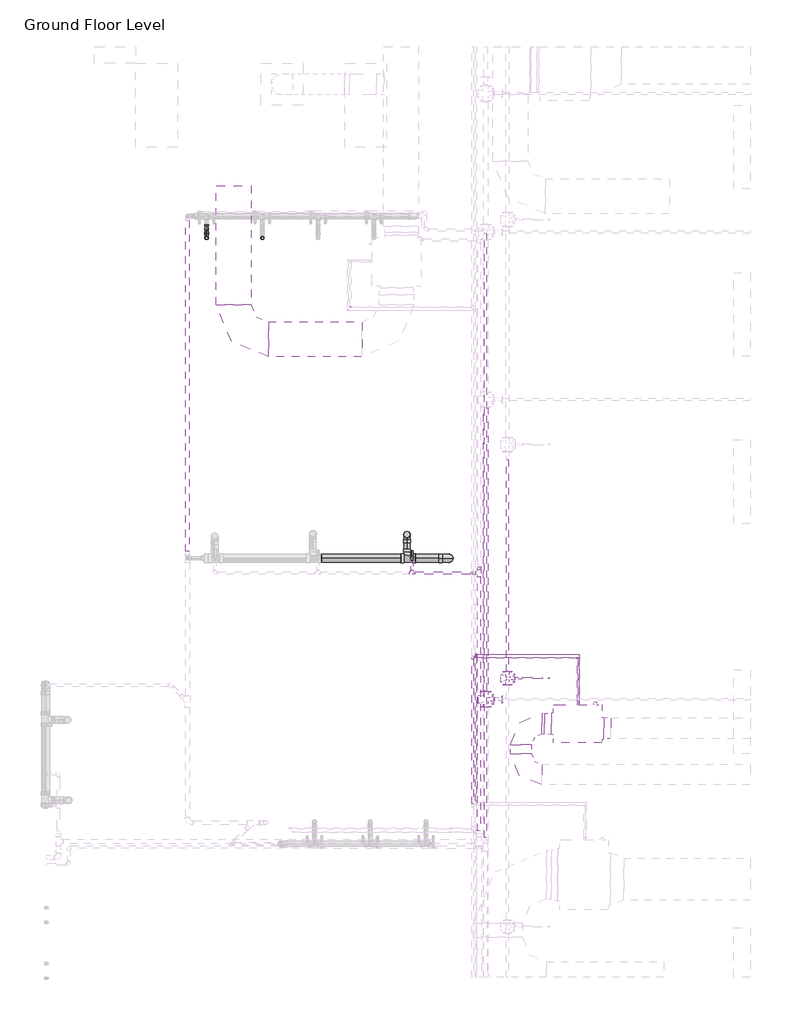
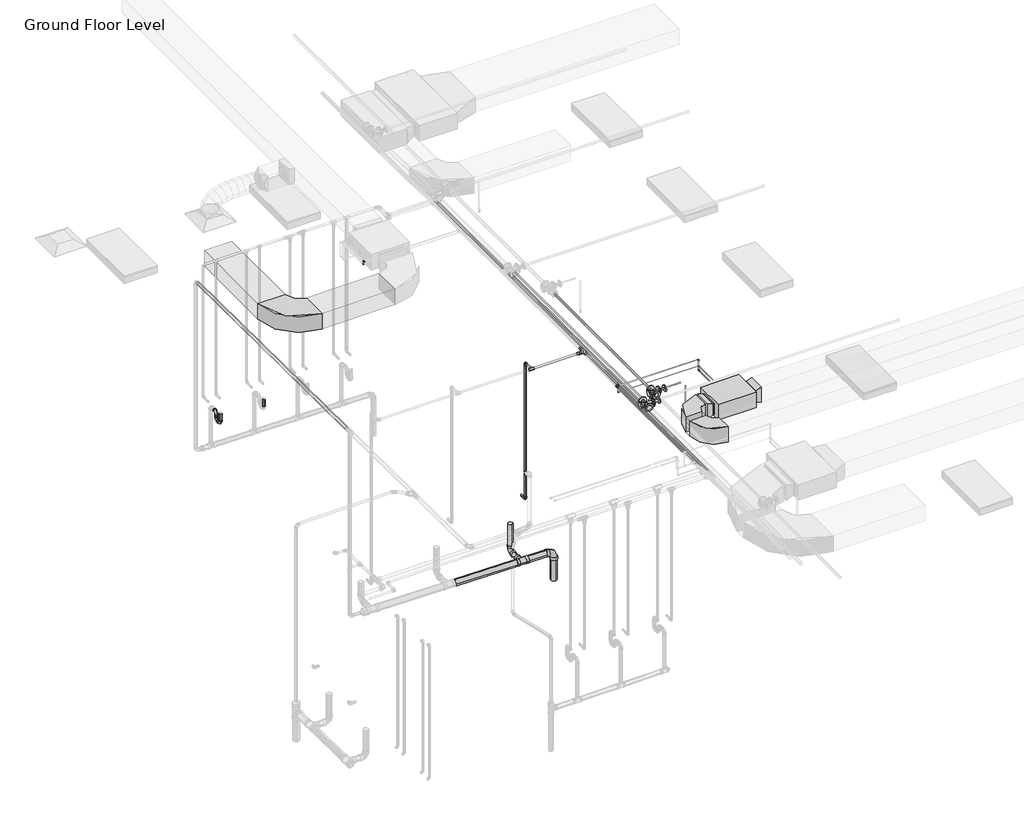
# One storey, part 21 of 75: 29 pipe segments, 26 pipe fittings, 5 duct fittings, 4 duct segments, 1 fire suppression terminal, 1 proxy.
"""IFC4 building model written with IfcOpenShell, lengths in millimetres."""

from ifc_helpers import new_model, si_unit, point, frame, frame_2d, origin, place, context, project, spatial, polyline, circle_curve, trimmed, segment, composite_curve, outline, extrude, transform, mapped, element, save
from components import fcu_daikin_iu_27d020f6, m_rectangular_elbow_radius_1_w_618da153, m_rectangular_elbow_radius_1_w_abe20169, m_rectangular_transition_angle_45_degree_bfac0661, m_rectangular_transition_angle_45_degree_d4666cfa, m_sprinkler_pendent_15_mm_pendent_06fcbd8e, m_bend_pvc_sch_40_dwv_standard_a4b99d37, m_bend_pvc_sch_40_dwv_standard_aa7efa4c, m_bend_pvc_sch_40_dwv_standard_1e7bdcc1, m_bend_pvc_sch_40_dwv_standard_776e50c4, m_elbow_generic_standard_a088f956, m_elbow_generic_standard_2a704253, m_reducer_flanged_cs_class_150_standard_d42b2106, m_reducer_flanged_cs_class_150_standard_a7631c35, m_tee_generic_standard_5b2ed4d4, m_tee_generic_standard_5078887e, m_tee_reducing_sanitary_pvc_sch_40_dwv_standard_b49161a9, m_tee_round_base_flanged_cs_class_150_standard_dd767e04, m_tee_round_base_flanged_cs_class_150_standard_7e5987a1, m_transition_generic_standard_44e35838, m_transition_generic_standard_2d362458, standard_517a5a8d, standard_72b35c3b, standard_08ff6011, standard_d0d0b892

model = new_model("IFC4")

# Units and contexts
model_context = context("Model", 3, world=origin())
ifc_project = project(units=[si_unit("LENGTHUNIT", "METRE", prefix="MILLI")], contexts=[model_context])

# Site, building, storey
site = spatial("IfcSite", under=ifc_project)
building = spatial("IfcBuilding", under=site)
storey = spatial("IfcBuildingStorey", under=building, Name="Ground Floor Level", Elevation=900.0)

# Proxy
placement = place(None, origin())
fcu_daikin_iu_shape = fcu_daikin_iu_27d020f6(model_context)
element("IfcBuildingElementProxy", 1, Name="FCU-DAIKIN IU : 2.3kW, 230V/50Hz/1Ph", ObjectType="FCU-DAIKIN IU : 2.3kW, 230V/50Hz/1Ph", at=placement, inside=storey, context=model_context, shape_type="MappedRepresentation", body=[
    mapped(fcu_daikin_iu_shape, transform((7003.8644074, -31136.6877703, 4080.0), x_axis=(0.0, 1.0, 0.0), y_axis=(-1.0, 0.0, 0.0), z_axis=(0.0, 0.0, 1.0))),
])

# Duct fittings
m_rectangular_elbow_radius_1_w_shape = m_rectangular_elbow_radius_1_w_618da153(model_context)
element("IfcDuctFitting", 2, ObjectType="M_Rectangular Elbow - Radius : 1 W", at=placement, inside=storey, context=model_context, shape_type="MappedRepresentation", body=[
    mapped(m_rectangular_elbow_radius_1_w_shape, transform((6188.4644074, -31136.6877703, 4221.2), x_axis=(-1.0, 0.0, 0.0), y_axis=(0.0, -1.0, 0.0), z_axis=(0.0, 0.0, 1.0))),
])
element("IfcDuctFitting", 3, ObjectType="M_Rectangular Elbow - Radius : 1 W", at=placement, inside=storey, context=model_context, shape_type="MappedRepresentation", body=[
    mapped(m_rectangular_elbow_radius_1_w_shape, transform((6188.4644074, -31864.7846466, 4221.2), x_axis=(0.0, -1.0, 0.0), y_axis=(1.0, 0.0, 0.0), z_axis=(0.0, 0.0, 1.0))),
])
m_rectangular_elbow_radius_1_w_2_shape = m_rectangular_elbow_radius_1_w_abe20169(model_context)
element("IfcDuctFitting", 4, ObjectType="M_Rectangular Elbow - Radius : 1 W", at=placement, inside=storey, context=model_context, shape_type="MappedRepresentation", body=[
    mapped(m_rectangular_elbow_radius_1_w_2_shape, transform((2065.6581888, -25622.6440715, 4075.2875), x_axis=(0.0, -1.0, 0.0), y_axis=(1.0, 0.0, 0.0), z_axis=(0.0, 0.0, 1.0))),
])
m_rectangular_transition_angle_45_degree_shape = m_rectangular_transition_angle_45_degree_bfac0661(model_context)
element("IfcDuctFitting", 5, ObjectType="M_Rectangular Transition - Angle : 45 Degree", at=placement, inside=storey, context=model_context, shape_type="MappedRepresentation", body=[
    mapped(m_rectangular_transition_angle_45_degree_shape, transform((6628.4644074, -31136.6877703, 4221.2), x_axis=(-1.0, 0.0, 0.0), y_axis=(0.0, -1.0, 0.0), z_axis=(0.0, 0.0, 1.0))),
])
m_rectangular_transition_angle_45_degree_2_shape = m_rectangular_transition_angle_45_degree_d4666cfa(model_context)
element("IfcDuctFitting", 6, ObjectType="M_Rectangular Transition - Angle : 45 Degree", at=placement, inside=storey, context=model_context, shape_type="MappedRepresentation", body=[
    mapped(m_rectangular_transition_angle_45_degree_2_shape, transform((7379.2644074, -31200.1877703, 4245.9125), x_axis=(1.0, 0.0, 0.0), y_axis=(0.0, 1.0, 0.0), z_axis=(0.0, 0.0, 1.0))),
])

# Duct segments
element("IfcDuctSegment", 7, ObjectType="Radius Elbows / Taps", at=placement, inside=storey, context=model_context, shape_type="SweptSolid", body=[
    extrude(outline(polyline([(0.0, -500.0), (0.0, 0.0), (1339.9999945, 0.0), (1339.9999945, -500.0), (0.0, -500.0)])), frame((3905.660192, -25872.6440715, 3925.3054453), z_axis=(-1.3392036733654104e-05, 0.0, 0.9999999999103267), x_axis=(-0.9999999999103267, 0.0, -1.3392036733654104e-05)), (0.0, 0.0, 1.0), 300.0),
])
element("IfcDuctSegment", 8, ObjectType="Radius Elbows / Taps", at=placement, inside=storey, context=model_context, shape_type="SweptSolid", body=[
    extrude(outline(polyline([(2315.6581888, -25122.6440715), (1815.6581888, -25122.6440715), (1815.6581888, -23422.6440715), (2315.6581888, -23422.6440715), (2315.6581888, -25122.6440715)])), frame((0.0, 0.0, 3925.2875), z_axis=(0.0, 0.0, 1.0), x_axis=(1.0, 0.0, 0.0)), (0.0, 0.0, 1.0), 300.0),
])
element("IfcDuctSegment", 9, ObjectType="Radius Elbows / Taps", at=placement, inside=storey, context=model_context, shape_type="SweptSolid", body=[
    extrude(outline(polyline([(6525.0153563, -30986.6877703), (6525.0153563, -31286.6877703), (6488.4644074, -31286.6877703), (6488.4644074, -30986.6877703), (6525.0153563, -30986.6877703)])), frame((0.0, 0.0, 4071.2), z_axis=(0.0, 0.0, 1.0), x_axis=(1.0, 0.0, 0.0)), (0.0, 0.0, 1.0), 300.0),
])
element("IfcDuctSegment", 10, ObjectType="Radius Elbows / Taps", at=placement, inside=storey, context=model_context, shape_type="SweptSolid", body=[
    extrude(outline(polyline([(6038.4644074, -31436.6877703), (6338.4644074, -31436.6877703), (6338.4644074, -31564.7846466), (6038.4644074, -31564.7846466), (6038.4644074, -31436.6877703)])), frame((0.0, 0.0, 4071.2), z_axis=(0.0, 0.0, 1.0), x_axis=(1.0, 0.0, 0.0)), (0.0, 0.0, 1.0), 300.0),
])

# Fire suppression terminal
m_sprinkler_pendent_15_mm_pendent_shape = m_sprinkler_pendent_15_mm_pendent_06fcbd8e(model_context)
element("IfcFireSuppressionTerminal", 11, ObjectType="M_Sprinkler - Pendent : 15 mm Pendent", at=placement, inside=storey, context=model_context, shape_type="MappedRepresentation", body=[
    mapped(m_sprinkler_pendent_15_mm_pendent_shape, transform((6592.5481019, -30483.0742399, 3650.0), x_axis=(1.0, 0.0, 0.0), y_axis=(0.0, 1.0, 0.0), z_axis=(0.0, 0.0, 1.0))),
])

# Pipe fittings
m_bend_pvc_sch_40_dwv_standard_shape = m_bend_pvc_sch_40_dwv_standard_a4b99d37(model_context)
element("IfcPipeFitting", 12, ObjectType="M_Bend - PVC - Sch 40 - DWV : Standard", at=placement, inside=storey, context=model_context, shape_type="MappedRepresentation", body=[
    mapped(m_bend_pvc_sch_40_dwv_standard_shape, transform((4553.7150181, -28421.2419494, 454.489269), x_axis=(0.0, 0.0, -1.0), y_axis=(0.0, -1.0, 0.0), z_axis=(-1.0, 0.0, 0.0))),
])
m_bend_pvc_sch_40_dwv_standard_2_shape = m_bend_pvc_sch_40_dwv_standard_aa7efa4c(model_context)
element("IfcPipeFitting", 13, ObjectType="M_Bend - PVC - Sch 40 - DWV : Standard", at=placement, inside=storey, context=model_context, shape_type="MappedRepresentation", body=[
    mapped(m_bend_pvc_sch_40_dwv_standard_2_shape, transform((5158.4803359, -28761.5689421, 448.4416158), x_axis=(0.9999500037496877, 0.0, -0.00999950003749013), y_axis=(-0.00999950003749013, 0.0, -0.9999500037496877), z_axis=(0.0, 1.0, 0.0))),
])
m_bend_pvc_sch_40_dwv_standard_3_shape = m_bend_pvc_sch_40_dwv_standard_1e7bdcc1(model_context)
element("IfcPipeFitting", 14, ObjectType="M_Bend - PVC - Sch 40 - DWV : Standard", at=placement, inside=storey, context=model_context, shape_type="MappedRepresentation", body=[
    mapped(m_bend_pvc_sch_40_dwv_standard_3_shape, transform((1678.7498, -24168.3528578, 1360.0000049), x_axis=(0.0, 0.0, -1.0), y_axis=(0.0, 1.0, 0.0), z_axis=(1.0, 0.0, 0.0))),
])
m_bend_pvc_sch_40_dwv_standard_4_shape = m_bend_pvc_sch_40_dwv_standard_776e50c4(model_context)
element("IfcPipeFitting", 15, ObjectType="M_Bend - PVC - Sch 40 - DWV : Standard", at=placement, inside=storey, context=model_context, shape_type="MappedRepresentation", body=[
    mapped(m_bend_pvc_sch_40_dwv_standard_4_shape, transform((1678.7498, -24038.3523645, 1358.7), x_axis=(0.0, 0.9999500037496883, -0.009999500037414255), y_axis=(0.0, 0.009999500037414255, 0.9999500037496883), z_axis=(1.0, 0.0, 0.0))),
])
element("IfcPipeFitting", 16, ObjectType="M_Bend - PVC - Sch 40 - DWV : Standard", at=placement, inside=storey, context=model_context, shape_type="MappedRepresentation", body=[
    mapped(m_bend_pvc_sch_40_dwv_standard_4_shape, transform((1678.7498, -24038.3523645, 1510.0493267), x_axis=(0.0, 0.0, 1.0), y_axis=(0.0, 1.0, 0.0), z_axis=(-1.0, 0.0, 0.0))),
])
m_elbow_generic_standard_shape = m_elbow_generic_standard_a088f956(model_context)
element("IfcPipeFitting", 17, ObjectType="M_Elbow - Generic : Standard", at=placement, inside=storey, context=model_context, shape_type="MappedRepresentation", body=[
    mapped(m_elbow_generic_standard_shape, transform((7003.8644074, -30187.4513653, 4390.0), x_axis=(1.0, 0.0, 0.0), y_axis=(0.0, 0.0, -1.0), z_axis=(0.0, 1.0, 0.0))),
])
element("IfcPipeFitting", 18, ObjectType="M_Elbow - Generic : Standard", at=placement, inside=storey, context=model_context, shape_type="MappedRepresentation", body=[
    mapped(m_elbow_generic_standard_shape, transform((7003.8644074, -30187.4513653, 4180.0), x_axis=(0.0, 0.0, -1.0), y_axis=(0.0, -1.0, 0.0), z_axis=(-1.0, 0.0, 0.0))),
])
element("IfcPipeFitting", 19, ObjectType="M_Elbow - Generic : Standard", at=placement, inside=storey, context=model_context, shape_type="MappedRepresentation", body=[
    mapped(m_elbow_generic_standard_shape, transform((3741.7995393, -25162.0896488, 4390.0), x_axis=(0.0, -1.0, 0.0), y_axis=(1.0, 0.0, 0.0), z_axis=(0.0, 0.0, 1.0))),
])
m_elbow_generic_standard_2_shape = m_elbow_generic_standard_2a704253(model_context)
element("IfcPipeFitting", 20, ObjectType="M_Elbow - Generic : Standard", at=placement, inside=storey, context=model_context, shape_type="MappedRepresentation", body=[
    mapped(m_elbow_generic_standard_2_shape, transform((3705.4496688, -25206.4899508, 4377.5), x_axis=(0.0, -1.0, 0.0), y_axis=(1.0, 0.0, 0.0), z_axis=(0.0, 0.0, 1.0))),
])
element("IfcPipeFitting", 21, ObjectType="M_Elbow - Generic : Standard", at=placement, inside=storey, context=model_context, shape_type="MappedRepresentation", body=[
    mapped(m_elbow_generic_standard_2_shape, transform((7028.8644074, -30144.9316538, 4230.8), x_axis=(0.0, 1.0, 0.0), y_axis=(-1.0, 0.0, 0.0), z_axis=(0.0, 0.0, 1.0))),
])
element("IfcPipeFitting", 22, ObjectType="M_Elbow - Generic : Standard", at=placement, inside=storey, context=model_context, shape_type="MappedRepresentation", body=[
    mapped(m_elbow_generic_standard_2_shape, transform((5543.9904113, -30144.9316538, 4230.8), x_axis=(0.0, 0.0, -1.0), y_axis=(1.0, 0.0, 0.0), z_axis=(0.0, -1.0, 0.0))),
])
m_reducer_flanged_cs_class_150_standard_shape = m_reducer_flanged_cs_class_150_standard_d42b2106(model_context)
element("IfcPipeFitting", 23, ObjectType="M_Reducer - Flanged - CS - Class 150 : Standard", at=placement, inside=storey, context=model_context, shape_type="MappedRepresentation", body=[
    mapped(m_reducer_flanged_cs_class_150_standard_shape, transform((6097.7664057, -30483.0742399, 4291.2754753), x_axis=(1.0, 0.0, 0.0), y_axis=(0.0, 0.0, -1.0), z_axis=(0.0, 1.0, 0.0))),
])
m_reducer_flanged_cs_class_150_standard_2_shape = m_reducer_flanged_cs_class_150_standard_a7631c35(model_context)
element("IfcPipeFitting", 24, ObjectType="M_Reducer - Flanged - CS - Class 150 : Standard", at=placement, inside=storey, context=model_context, shape_type="MappedRepresentation", body=[
    mapped(m_reducer_flanged_cs_class_150_standard_2_shape, transform((5798.6174894, -30785.1783804, 4347.5), x_axis=(1.0, 0.0, 0.0), y_axis=(0.0, 0.0, 1.0), z_axis=(0.0, -1.0, 0.0))),
])
m_tee_generic_standard_shape = m_tee_generic_standard_5b2ed4d4(model_context)
element("IfcPipeFitting", 25, ObjectType="M_Tee - Generic : Standard", at=placement, inside=storey, context=model_context, shape_type="MappedRepresentation", body=[
    mapped(m_tee_generic_standard_shape, transform((5543.9904113, -30144.9316538, 4377.5), x_axis=(0.0, -1.0, 0.0), y_axis=(0.0, 0.0, 1.0), z_axis=(-1.0, 0.0, 0.0))),
])
m_tee_generic_standard_2_shape = m_tee_generic_standard_5078887e(model_context)
element("IfcPipeFitting", 26, ObjectType="M_Tee - Generic : Standard", at=placement, inside=storey, context=model_context, shape_type="MappedRepresentation", body=[
    mapped(m_tee_generic_standard_2_shape, transform((5497.8951827, -30187.4513653, 4390.0), x_axis=(0.0, -1.0, 0.0), y_axis=(-1.0, 0.0, 0.0), z_axis=(0.0, 0.0, -1.0))),
])
m_tee_reducing_sanitary_pvc_sch_40_dwv_standard_shape = m_tee_reducing_sanitary_pvc_sch_40_dwv_standard_b49161a9(model_context)
element("IfcPipeFitting", 27, ObjectType="M_Tee Reducing Sanitary - PVC - Sch 40 - DWV : Standard", at=placement, inside=storey, context=model_context, shape_type="MappedRepresentation", body=[
    mapped(m_tee_reducing_sanitary_pvc_sch_40_dwv_standard_shape, transform((4553.7150181, -28761.5689421, 454.489269), x_axis=(-0.9999500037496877, 0.0, 0.009999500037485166), y_axis=(0.0, -1.0, 0.0), z_axis=(0.009999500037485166, 0.0, 0.9999500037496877))),
])
m_tee_round_base_flanged_cs_class_150_standard_shape = m_tee_round_base_flanged_cs_class_150_standard_dd767e04(model_context)
element("IfcPipeFitting", 28, ObjectType="M_Tee Round Base - Flanged - CS - Class 150 : Standard", at=placement, inside=storey, context=model_context, shape_type="MappedRepresentation", body=[
    mapped(m_tee_round_base_flanged_cs_class_150_standard_shape, transform((5684.6174894, -30785.1783804, 4347.5), x_axis=(0.0, -1.0, 0.0), y_axis=(-1.0, 0.0, 0.0), z_axis=(0.0, 0.0, -1.0))),
])
m_tee_round_base_flanged_cs_class_150_standard_2_shape = m_tee_round_base_flanged_cs_class_150_standard_7e5987a1(model_context)
element("IfcPipeFitting", 29, ObjectType="M_Tee Round Base - Flanged - CS - Class 150 : Standard", at=placement, inside=storey, context=model_context, shape_type="MappedRepresentation", body=[
    mapped(m_tee_round_base_flanged_cs_class_150_standard_2_shape, transform((5997.057812, -30483.0742399, 4291.0943441), x_axis=(0.0, 1.0, 0.0), y_axis=(-1.0, 0.0, 0.0), z_axis=(0.0, 0.0, 1.0))),
])
m_transition_generic_standard_shape = m_transition_generic_standard_44e35838(model_context)
element("IfcPipeFitting", 30, ObjectType="M_Transition - Generic : Standard", at=placement, inside=storey, context=model_context, shape_type="MappedRepresentation", body=[
    mapped(m_transition_generic_standard_shape, transform((5521.7076827, -30187.4513653, 4390.0), x_axis=(1.0, 0.0, 0.0), y_axis=(0.0, 1.0, 0.0), z_axis=(0.0, 0.0, 1.0))),
])
m_transition_generic_standard_2_shape = m_transition_generic_standard_2d362458(model_context)
element("IfcPipeFitting", 31, ObjectType="M_Transition - Generic : Standard", at=placement, inside=storey, context=model_context, shape_type="MappedRepresentation", body=[
    mapped(m_transition_generic_standard_2_shape, transform((5543.9904113, -30144.9316538, 4356.8625), x_axis=(0.0, 0.0, -1.0), y_axis=(1.0, 0.0, 0.0), z_axis=(0.0, -1.0, 0.0))),
])
standard_shape = standard_517a5a8d(model_context)
element("IfcPipeFitting", 32, ObjectType="M_Elbow - CPVC - Sch 40 : Standard", at=placement, inside=storey, context=model_context, shape_type="MappedRepresentation", body=[
    mapped(standard_shape, transform((4627.1152882, -28774.7846466, 1655.0), x_axis=(0.0, -1.0, 0.0), y_axis=(0.0, 0.0, 1.0), z_axis=(-1.0, 0.0, 0.0))),
])
element("IfcPipeFitting", 33, ObjectType="M_Elbow - CPVC - Sch 40 : Standard", at=placement, inside=storey, context=model_context, shape_type="MappedRepresentation", body=[
    mapped(standard_shape, transform((4627.1152882, -28774.7846466, 4300.0), x_axis=(0.0, 0.0, 1.0), y_axis=(0.0, -1.0, 0.0), z_axis=(1.0, 0.0, 0.0))),
])
standard_2_shape = standard_72b35c3b(model_context)
element("IfcPipeFitting", 34, ObjectType="M_Tee - CPVC - Sch 40 : Standard", at=placement, inside=storey, context=model_context, shape_type="MappedRepresentation", body=[
    mapped(standard_2_shape, transform((4627.1152882, -28974.7846466, 4300.0), x_axis=(-1.0, 0.0, 0.0), y_axis=(0.0, -1.0, 0.0), z_axis=(0.0, 0.0, 1.0))),
])
standard_3_shape = standard_08ff6011(model_context)
element("IfcPipeFitting", 35, ObjectType="M_Tee - CPVC - Sch 40 : Standard", at=placement, inside=storey, context=model_context, shape_type="MappedRepresentation", body=[
    mapped(standard_3_shape, transform((5589.646628, -28974.7846466, 4300.0), x_axis=(0.0, 1.0, 0.0), y_axis=(1.0, 0.0, 0.0), z_axis=(0.0, 0.0, -1.0))),
])
standard_4_shape = standard_d0d0b892(model_context)
element("IfcPipeFitting", 36, ObjectType="M_Coupling Reducing - CPVC - Sch 40 : Standard", at=placement, inside=storey, context=model_context, shape_type="MappedRepresentation", body=[
    mapped(standard_4_shape, transform((5589.646628, -28920.8096466, 4300.0), x_axis=(0.0, 1.0, 0.0), y_axis=(-1.0, 0.0, 0.0), z_axis=(0.0, 0.0, 1.0))),
])
element("IfcPipeFitting", 37, ObjectType="M_Coupling Reducing - CPVC - Sch 40 : Standard", at=placement, inside=storey, context=model_context, shape_type="MappedRepresentation", body=[
    mapped(standard_4_shape, transform((5535.671628, -28974.7846466, 4300.0), x_axis=(-1.0, 0.0, 0.0), y_axis=(0.0, -1.0, 0.0), z_axis=(0.0, 0.0, 1.0))),
])

# Pipe segments
element("IfcPipeSegment", 38, ObjectType="CPVC", at=placement, inside=storey, context=model_context, shape_type="SweptSolid", body=[
    extrude(outline(composite_curve([segment(trimmed(circle_curve(frame_2d((1655.0, 4627.1152882)), 16.7005), [point((1655.0, 4610.4147882))], [point((1638.2995, 4627.1152882))], False, "CARTESIAN"), True, "CONTINUOUS"), segment(trimmed(circle_curve(frame_2d((1655.0, 4627.1152882)), 16.7005), [point((1638.2995, 4627.1152882))], [point((1655.0, 4643.8157882))], False, "CARTESIAN"), True, "CONTINUOUS"), segment(trimmed(circle_curve(frame_2d((1655.0, 4627.1152882)), 16.7005), [point((1655.0, 4643.8157882))], [point((1671.7005, 4627.1152882))], False, "CARTESIAN"), True, "CONTINUOUS"), segment(trimmed(circle_curve(frame_2d((1655.0, 4627.1152882)), 16.7005), [point((1671.7005, 4627.1152882))], [point((1655.0, 4610.4147882))], False, "CARTESIAN"), True, "CONTINUOUS")], self_intersect=False)), frame((0.0, -28731.5220966, 0.0), z_axis=(0.0, 1.0, 0.0), x_axis=(0.0, 0.0, 1.0)), (0.0, 0.0, 1.0), 76.73745),
])
element("IfcPipeSegment", 39, ObjectType="CPVC", at=placement, inside=storey, context=model_context, shape_type="SweptSolid", body=[
    extrude(outline(composite_curve([segment(trimmed(circle_curve(frame_2d((4300.0, 4627.1152882)), 16.7005), [point((4300.0, 4610.4147882))], [point((4283.2995, 4627.1152882))], False, "CARTESIAN"), True, "CONTINUOUS"), segment(trimmed(circle_curve(frame_2d((4300.0, 4627.1152882)), 16.7005), [point((4283.2995, 4627.1152882))], [point((4300.0, 4643.8157882))], False, "CARTESIAN"), True, "CONTINUOUS"), segment(trimmed(circle_curve(frame_2d((4300.0, 4627.1152882)), 16.7005), [point((4300.0, 4643.8157882))], [point((4316.7005, 4627.1152882))], False, "CARTESIAN"), True, "CONTINUOUS"), segment(trimmed(circle_curve(frame_2d((4300.0, 4627.1152882)), 16.7005), [point((4316.7005, 4627.1152882))], [point((4300.0, 4610.4147882))], False, "CARTESIAN"), True, "CONTINUOUS")], self_intersect=False)), frame((0.0, -28935.0844466, 0.0), z_axis=(0.0, 1.0, 0.0), x_axis=(0.0, 0.0, 1.0)), (0.0, 0.0, 1.0), 117.03725),
])
element("IfcPipeSegment", 40, ObjectType="CPVC", at=placement, inside=storey, context=model_context, shape_type="SweptSolid", body=[
    extrude(outline(composite_curve([segment(trimmed(circle_curve(frame_2d((4627.1152882, -28774.7846466)), 16.7005), [point((4610.4147882, -28774.7846466))], [point((4627.1152882, -28758.0841466))], False, "CARTESIAN"), True, "CONTINUOUS"), segment(trimmed(circle_curve(frame_2d((4627.1152882, -28774.7846466)), 16.7005), [point((4627.1152882, -28758.0841466))], [point((4643.8157882, -28774.7846466))], False, "CARTESIAN"), True, "CONTINUOUS"), segment(trimmed(circle_curve(frame_2d((4627.1152882, -28774.7846466)), 16.7005), [point((4643.8157882, -28774.7846466))], [point((4627.1152882, -28791.4851466))], False, "CARTESIAN"), True, "CONTINUOUS"), segment(trimmed(circle_curve(frame_2d((4627.1152882, -28774.7846466)), 16.7005), [point((4627.1152882, -28791.4851466))], [point((4610.4147882, -28774.7846466))], False, "CARTESIAN"), True, "CONTINUOUS")], self_intersect=False)), frame((0.0, 0.0, 1698.26255), z_axis=(0.0, 0.0, 1.0), x_axis=(1.0, 0.0, 0.0)), (0.0, 0.0, 1.0), 2558.4749),
])
element("IfcPipeSegment", 41, ObjectType="CPVC", at=placement, inside=storey, context=model_context, shape_type="SweptSolid", body=[
    extrude(outline(composite_curve([segment(trimmed(circle_curve(frame_2d((-28974.7846466, 4300.0)), 16.7005), [point((-28958.0841466, 4300.0))], [point((-28974.7846466, 4283.2995))], False, "CARTESIAN"), True, "CONTINUOUS"), segment(trimmed(circle_curve(frame_2d((-28974.7846466, 4300.0)), 16.7005), [point((-28974.7846466, 4283.2995))], [point((-28991.4851466, 4300.0))], False, "CARTESIAN"), True, "CONTINUOUS"), segment(trimmed(circle_curve(frame_2d((-28974.7846466, 4300.0)), 16.7005), [point((-28991.4851466, 4300.0))], [point((-28974.7846466, 4316.7005))], False, "CARTESIAN"), True, "CONTINUOUS"), segment(trimmed(circle_curve(frame_2d((-28974.7846466, 4300.0)), 16.7005), [point((-28974.7846466, 4316.7005))], [point((-28958.0841466, 4300.0))], False, "CARTESIAN"), True, "CONTINUOUS")], self_intersect=False)), frame((4666.8154882, 0.0, 0.0), z_axis=(1.0, 0.0, 0.0), x_axis=(0.0, 1.0, 0.0)), (0.0, 0.0, 1.0), 802.7372648),
])
element("IfcPipeSegment", 42, ObjectType="CPVC", at=placement, inside=storey, context=model_context, shape_type="SweptSolid", body=[
    extrude(outline(composite_curve([segment(trimmed(circle_curve(frame_2d((4300.0, 5589.646628)), 21.082), [point((4300.0, 5568.564628))], [point((4278.918, 5589.646628))], False, "CARTESIAN"), True, "CONTINUOUS"), segment(trimmed(circle_curve(frame_2d((4300.0, 5589.646628)), 21.082), [point((4278.918, 5589.646628))], [point((4300.0, 5610.728628))], False, "CARTESIAN"), True, "CONTINUOUS"), segment(trimmed(circle_curve(frame_2d((4300.0, 5589.646628)), 21.082), [point((4300.0, 5610.728628))], [point((4321.082, 5589.646628))], False, "CARTESIAN"), True, "CONTINUOUS"), segment(trimmed(circle_curve(frame_2d((4300.0, 5589.646628)), 21.082), [point((4321.082, 5589.646628))], [point((4300.0, 5568.564628))], False, "CARTESIAN"), True, "CONTINUOUS")], self_intersect=False)), frame((0.0, -32672.9715951, 0.0), z_axis=(0.0, 1.0, 0.0), x_axis=(0.0, 0.0, 1.0)), (0.0, 0.0, 1.0), 3644.2119485),
])
element("IfcPipeSegment", 43, ObjectType="CPVC", at=placement, inside=storey, context=model_context, shape_type="SweptSolid", body=[
    extrude(outline(composite_curve([segment(trimmed(circle_curve(frame_2d((4250.0, 5680.5575802)), 16.7005), [point((4250.0, 5697.2580802))], [point((4266.7005, 5680.5575802))], False, "CARTESIAN"), True, "CONTINUOUS"), segment(trimmed(circle_curve(frame_2d((4250.0, 5680.5575802)), 16.7005), [point((4266.7005, 5680.5575802))], [point((4250.0, 5663.8570802))], False, "CARTESIAN"), True, "CONTINUOUS"), segment(trimmed(circle_curve(frame_2d((4250.0, 5680.5575802)), 16.7005), [point((4250.0, 5663.8570802))], [point((4233.2995, 5680.5575802))], False, "CARTESIAN"), True, "CONTINUOUS"), segment(trimmed(circle_curve(frame_2d((4250.0, 5680.5575802)), 16.7005), [point((4233.2995, 5680.5575802))], [point((4250.0, 5697.2580802))], False, "CARTESIAN"), True, "CONTINUOUS")], self_intersect=False)), frame((0.0, -32774.921633, 0.0), z_axis=(0.0, 1.0, 0.0), x_axis=(0.0, 0.0, 1.0)), (0.0, 0.0, 1.0), 8676.73745),
])
element("IfcPipeSegment", 44, ObjectType="Copper", at=placement, inside=storey, context=model_context, shape_type="SweptSolid", body=[
    extrude(outline(composite_curve([segment(trimmed(circle_curve(frame_2d((-30187.4513653, 4390.0)), 6.5), [point((-30193.9513653, 4390.0))], [point((-30187.4513653, 4396.5))], False, "CARTESIAN"), True, "CONTINUOUS"), segment(trimmed(circle_curve(frame_2d((-30187.4513653, 4390.0)), 6.5), [point((-30187.4513653, 4396.5))], [point((-30180.9513653, 4390.0))], False, "CARTESIAN"), True, "CONTINUOUS"), segment(trimmed(circle_curve(frame_2d((-30187.4513653, 4390.0)), 6.5), [point((-30180.9513653, 4390.0))], [point((-30187.4513653, 4383.5))], False, "CARTESIAN"), True, "CONTINUOUS"), segment(trimmed(circle_curve(frame_2d((-30187.4513653, 4390.0)), 6.5), [point((-30187.4513653, 4383.5))], [point((-30193.9513653, 4390.0))], False, "CARTESIAN"), True, "CONTINUOUS")], self_intersect=False)), frame((5527.2639327, 0.0, 0.0), z_axis=(1.0, 0.0, 0.0), x_axis=(0.0, 1.0, 0.0)), (0.0, 0.0, 1.0), 1462.3129748),
])
element("IfcPipeSegment", 45, ObjectType="Copper", at=placement, inside=storey, context=model_context, shape_type="SweptSolid", body=[
    extrude(outline(composite_curve([segment(trimmed(circle_curve(frame_2d((4390.0, 5497.8951827)), 9.75), [point((4390.0, 5507.6451827))], [point((4399.75, 5497.8951827))], False, "CARTESIAN"), True, "CONTINUOUS"), segment(trimmed(circle_curve(frame_2d((4390.0, 5497.8951827)), 9.75), [point((4399.75, 5497.8951827))], [point((4390.0, 5488.1451827))], False, "CARTESIAN"), True, "CONTINUOUS"), segment(trimmed(circle_curve(frame_2d((4390.0, 5497.8951827)), 9.75), [point((4390.0, 5488.1451827))], [point((4380.25, 5497.8951827))], False, "CARTESIAN"), True, "CONTINUOUS"), segment(trimmed(circle_curve(frame_2d((4390.0, 5497.8951827)), 9.75), [point((4380.25, 5497.8951827))], [point((4390.0, 5507.6451827))], False, "CARTESIAN"), True, "CONTINUOUS")], self_intersect=False)), frame((0.0, -32283.6388653, 0.0), z_axis=(0.0, 1.0, 0.0), x_axis=(0.0, 0.0, 1.0)), (0.0, 0.0, 1.0), 2072.375),
])
element("IfcPipeSegment", 46, ObjectType="Copper", at=placement, inside=storey, context=model_context, shape_type="SweptSolid", body=[
    extrude(outline(composite_curve([segment(trimmed(circle_curve(frame_2d((4180.0, 7003.8644074)), 6.5), [point((4180.0, 6997.3644074))], [point((4173.5, 7003.8644074))], False, "CARTESIAN"), True, "CONTINUOUS"), segment(trimmed(circle_curve(frame_2d((4180.0, 7003.8644074)), 6.5), [point((4173.5, 7003.8644074))], [point((4180.0, 7010.3644074))], False, "CARTESIAN"), True, "CONTINUOUS"), segment(trimmed(circle_curve(frame_2d((4180.0, 7003.8644074)), 6.5), [point((4180.0, 7010.3644074))], [point((4186.5, 7003.8644074))], False, "CARTESIAN"), True, "CONTINUOUS"), segment(trimmed(circle_curve(frame_2d((4180.0, 7003.8644074)), 6.5), [point((4186.5, 7003.8644074))], [point((4180.0, 6997.3644074))], False, "CARTESIAN"), True, "CONTINUOUS")], self_intersect=False)), frame((0.0, -30823.5877703, 0.0), z_axis=(0.0, 1.0, 0.0), x_axis=(0.0, 0.0, 1.0)), (0.0, 0.0, 1.0), 621.8489049),
])
element("IfcPipeSegment", 47, ObjectType="Copper", at=placement, inside=storey, context=model_context, shape_type="SweptSolid", body=[
    extrude(outline(composite_curve([segment(trimmed(circle_curve(frame_2d((4230.8, 7028.8644074)), 3.35), [point((4230.8, 7025.5144074))], [point((4227.45, 7028.8644074))], False, "CARTESIAN"), True, "CONTINUOUS"), segment(trimmed(circle_curve(frame_2d((4230.8, 7028.8644074)), 3.35), [point((4227.45, 7028.8644074))], [point((4230.8, 7032.2144074))], False, "CARTESIAN"), True, "CONTINUOUS"), segment(trimmed(circle_curve(frame_2d((4230.8, 7028.8644074)), 3.35), [point((4230.8, 7032.2144074))], [point((4234.15, 7028.8644074))], False, "CARTESIAN"), True, "CONTINUOUS"), segment(trimmed(circle_curve(frame_2d((4230.8, 7028.8644074)), 3.35), [point((4234.15, 7028.8644074))], [point((4230.8, 7025.5144074))], False, "CARTESIAN"), True, "CONTINUOUS")], self_intersect=False)), frame((0.0, -30823.5877703, 0.0), z_axis=(0.0, 1.0, 0.0), x_axis=(0.0, 0.0, 1.0)), (0.0, 0.0, 1.0), 667.5186165),
])
element("IfcPipeSegment", 48, ObjectType="Copper", at=placement, inside=storey, context=model_context, shape_type="SweptSolid", body=[
    extrude(outline(composite_curve([segment(trimmed(circle_curve(frame_2d((7003.8644074, -30187.4513653)), 6.5), [point((7010.3644074, -30187.4513653))], [point((7003.8644074, -30193.9513653))], False, "CARTESIAN"), True, "CONTINUOUS"), segment(trimmed(circle_curve(frame_2d((7003.8644074, -30187.4513653)), 6.5), [point((7003.8644074, -30193.9513653))], [point((6997.3644074, -30187.4513653))], False, "CARTESIAN"), True, "CONTINUOUS"), segment(trimmed(circle_curve(frame_2d((7003.8644074, -30187.4513653)), 6.5), [point((6997.3644074, -30187.4513653))], [point((7003.8644074, -30180.9513653))], False, "CARTESIAN"), True, "CONTINUOUS"), segment(trimmed(circle_curve(frame_2d((7003.8644074, -30187.4513653)), 6.5), [point((7003.8644074, -30180.9513653))], [point((7010.3644074, -30187.4513653))], False, "CARTESIAN"), True, "CONTINUOUS")], self_intersect=False)), frame((0.0, 0.0, 4194.2875), z_axis=(0.0, 0.0, 1.0), x_axis=(1.0, 0.0, 0.0)), (0.0, 0.0, 1.0), 181.425),
])
element("IfcPipeSegment", 49, ObjectType="Copper", at=placement, inside=storey, context=model_context, shape_type="SweptSolid", body=[
    extrude(outline(composite_curve([segment(trimmed(circle_curve(frame_2d((4377.5, 5543.9904113)), 6.5), [point((4377.5, 5550.4904113))], [point((4384.0, 5543.9904113))], False, "CARTESIAN"), True, "CONTINUOUS"), segment(trimmed(circle_curve(frame_2d((4377.5, 5543.9904113)), 6.5), [point((4384.0, 5543.9904113))], [point((4377.5, 5537.4904113))], False, "CARTESIAN"), True, "CONTINUOUS"), segment(trimmed(circle_curve(frame_2d((4377.5, 5543.9904113)), 6.5), [point((4377.5, 5537.4904113))], [point((4371.0, 5543.9904113))], False, "CARTESIAN"), True, "CONTINUOUS"), segment(trimmed(circle_curve(frame_2d((4377.5, 5543.9904113)), 6.5), [point((4371.0, 5543.9904113))], [point((4377.5, 5550.4904113))], False, "CARTESIAN"), True, "CONTINUOUS")], self_intersect=False)), frame((0.0, -32244.2941538, 0.0), z_axis=(0.0, 1.0, 0.0), x_axis=(0.0, 0.0, 1.0)), (0.0, 0.0, 1.0), 2078.725),
])
element("IfcPipeSegment", 50, ObjectType="Copper", at=placement, inside=storey, context=model_context, shape_type="SweptSolid", body=[
    extrude(outline(composite_curve([segment(trimmed(circle_curve(frame_2d((5543.9904113, -30144.9316538)), 3.35), [point((5547.3404113, -30144.9316538))], [point((5543.9904113, -30148.2816538))], False, "CARTESIAN"), True, "CONTINUOUS"), segment(trimmed(circle_curve(frame_2d((5543.9904113, -30144.9316538)), 3.35), [point((5543.9904113, -30148.2816538))], [point((5540.6404113, -30144.9316538))], False, "CARTESIAN"), True, "CONTINUOUS"), segment(trimmed(circle_curve(frame_2d((5543.9904113, -30144.9316538)), 3.35), [point((5540.6404113, -30144.9316538))], [point((5543.9904113, -30141.5816538))], False, "CARTESIAN"), True, "CONTINUOUS"), segment(trimmed(circle_curve(frame_2d((5543.9904113, -30144.9316538)), 3.35), [point((5543.9904113, -30141.5816538))], [point((5547.3404113, -30144.9316538))], False, "CARTESIAN"), True, "CONTINUOUS")], self_intersect=False)), frame((0.0, 0.0, 4241.9375), z_axis=(0.0, 0.0, 1.0), x_axis=(1.0, 0.0, 0.0)), (0.0, 0.0, 1.0), 110.95625),
])
element("IfcPipeSegment", 51, ObjectType="Copper", at=placement, inside=storey, context=model_context, shape_type="SweptSolid", body=[
    extrude(outline(composite_curve([segment(trimmed(circle_curve(frame_2d((-30144.9316538, 4230.8)), 3.35), [point((-30148.2816538, 4230.8))], [point((-30144.9316538, 4234.15))], False, "CARTESIAN"), True, "CONTINUOUS"), segment(trimmed(circle_curve(frame_2d((-30144.9316538, 4230.8)), 3.35), [point((-30144.9316538, 4234.15))], [point((-30141.5816538, 4230.8))], False, "CARTESIAN"), True, "CONTINUOUS"), segment(trimmed(circle_curve(frame_2d((-30144.9316538, 4230.8)), 3.35), [point((-30141.5816538, 4230.8))], [point((-30144.9316538, 4227.45))], False, "CARTESIAN"), True, "CONTINUOUS"), segment(trimmed(circle_curve(frame_2d((-30144.9316538, 4230.8)), 3.35), [point((-30144.9316538, 4227.45))], [point((-30148.2816538, 4230.8))], False, "CARTESIAN"), True, "CONTINUOUS")], self_intersect=False)), frame((5555.1279113, 0.0, 0.0), z_axis=(1.0, 0.0, 0.0), x_axis=(0.0, 1.0, 0.0)), (0.0, 0.0, 1.0), 1462.5989961),
])
element("IfcPipeSegment", 52, ObjectType="PVC - DWV", at=placement, inside=storey, context=model_context, shape_type="SweptSolid", body=[
    extrude(outline(composite_curve([segment(trimmed(circle_curve(frame_2d((1678.7498, -24168.3528578)), 24.13), [point((1702.8798, -24168.3528578))], [point((1678.7498, -24192.4828578))], False, "CARTESIAN"), True, "CONTINUOUS"), segment(trimmed(circle_curve(frame_2d((1678.7498, -24168.3528578)), 24.13), [point((1678.7498, -24192.4828578))], [point((1654.6198, -24168.3528578))], False, "CARTESIAN"), True, "CONTINUOUS"), segment(trimmed(circle_curve(frame_2d((1678.7498, -24168.3528578)), 24.13), [point((1654.6198, -24168.3528578))], [point((1678.7498, -24144.2228578))], False, "CARTESIAN"), True, "CONTINUOUS"), segment(trimmed(circle_curve(frame_2d((1678.7498, -24168.3528578)), 24.13), [point((1678.7498, -24144.2228578))], [point((1702.8798, -24168.3528578))], False, "CARTESIAN"), True, "CONTINUOUS")], self_intersect=False)), frame((0.0, 0.0, 1421.8998049), z_axis=(0.0, 0.0, 1.0), x_axis=(1.0, 0.0, 0.0)), (0.0, 0.0, 1.0), 128.1001951),
])
element("IfcPipeSegment", 53, ObjectType="PVC - DWV", at=placement, inside=storey, context=model_context, shape_type="SweptSolid", body=[
    extrude(outline(composite_curve([segment(trimmed(circle_curve(frame_2d((0.0, -24.1299999)), 24.13), [point((24.13, -24.1299999))], [point((0.0, -48.2599999))], False, "CARTESIAN"), True, "CONTINUOUS"), segment(trimmed(circle_curve(frame_2d((0.0, -24.1299999)), 24.13), [point((0.0, -48.2599999))], [point((-24.13, -24.1299999))], False, "CARTESIAN"), True, "CONTINUOUS"), segment(trimmed(circle_curve(frame_2d((0.0, -24.1299999)), 24.13), [point((-24.13, -24.1299999))], [point((0.0, 0.0))], False, "CARTESIAN"), True, "CONTINUOUS"), segment(trimmed(circle_curve(frame_2d((0.0, -24.1299999)), 24.13), [point((0.0, 0.0))], [point((24.13, -24.1299999))], False, "CARTESIAN"), True, "CONTINUOUS")], self_intersect=False)), frame((1678.7498, -24100.0077818, 1383.4477606), z_axis=(0.0, -0.9999500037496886, 0.0099995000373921), x_axis=(1.0, 0.0, 0.0)), (0.0, 0.0, 1.0), 6.2073931),
])
element("IfcPipeSegment", 54, ObjectType="PVC - DWV", at=placement, inside=storey, context=model_context, shape_type="SweptSolid", body=[
    extrude(outline(composite_curve([segment(trimmed(circle_curve(frame_2d((1678.7498, -24038.3523645)), 24.13), [point((1654.6198, -24038.3523645))], [point((1678.7498, -24014.2223645))], False, "CARTESIAN"), True, "CONTINUOUS"), segment(trimmed(circle_curve(frame_2d((1678.7498, -24038.3523645)), 24.13), [point((1678.7498, -24014.2223645))], [point((1702.8798, -24038.3523645))], False, "CARTESIAN"), True, "CONTINUOUS"), segment(trimmed(circle_curve(frame_2d((1678.7498, -24038.3523645)), 24.13), [point((1702.8798, -24038.3523645))], [point((1678.7498, -24062.4823645))], False, "CARTESIAN"), True, "CONTINUOUS"), segment(trimmed(circle_curve(frame_2d((1678.7498, -24038.3523645)), 24.13), [point((1678.7498, -24062.4823645))], [point((1654.6198, -24038.3523645))], False, "CARTESIAN"), True, "CONTINUOUS")], self_intersect=False)), frame((0.0, 0.0, 1420.5998), z_axis=(0.0, 0.0, 1.0), x_axis=(1.0, 0.0, 0.0)), (0.0, 0.0, 1.0), 27.5497267),
])
element("IfcPipeSegment", 55, ObjectType="PVC - DWV", at=placement, inside=storey, context=model_context, shape_type="SweptSolid", body=[
    extrude(outline(composite_curve([segment(trimmed(circle_curve(frame_2d((2478.7498, -24168.3528578)), 24.13), [point((2454.6198, -24168.3528578))], [point((2478.7498, -24144.2228578))], False, "CARTESIAN"), True, "CONTINUOUS"), segment(trimmed(circle_curve(frame_2d((2478.7498, -24168.3528578)), 24.13), [point((2478.7498, -24144.2228578))], [point((2502.8798, -24168.3528578))], False, "CARTESIAN"), True, "CONTINUOUS"), segment(trimmed(circle_curve(frame_2d((2478.7498, -24168.3528578)), 24.13), [point((2502.8798, -24168.3528578))], [point((2478.7498, -24192.4828578))], False, "CARTESIAN"), True, "CONTINUOUS"), segment(trimmed(circle_curve(frame_2d((2478.7498, -24168.3528578)), 24.13), [point((2478.7498, -24192.4828578))], [point((2454.6198, -24168.3528578))], False, "CARTESIAN"), True, "CONTINUOUS")], self_intersect=False)), frame((0.0, 0.0, 1421.89981), z_axis=(0.0, 0.0, 1.0), x_axis=(1.0, 0.0, 0.0)), (0.0, 0.0, 1.0), 128.10019),
])
element("IfcPipeSegment", 56, ObjectType="PVC - DWV", at=placement, inside=storey, context=model_context, shape_type="SweptSolid", body=[
    extrude(outline(composite_curve([segment(trimmed(circle_curve(frame_2d((0.0, -24.1299999)), 24.13), [point((24.13, -24.1299999))], [point((0.0, -48.2599999))], False, "CARTESIAN"), True, "CONTINUOUS"), segment(trimmed(circle_curve(frame_2d((0.0, -24.1299999)), 24.13), [point((0.0, -48.2599999))], [point((-24.13, -24.1299999))], False, "CARTESIAN"), True, "CONTINUOUS"), segment(trimmed(circle_curve(frame_2d((0.0, -24.1299999)), 24.13), [point((-24.13, -24.1299999))], [point((0.0, 0.0))], False, "CARTESIAN"), True, "CONTINUOUS"), segment(trimmed(circle_curve(frame_2d((0.0, -24.1299999)), 24.13), [point((0.0, 0.0))], [point((24.13, -24.1299999))], False, "CARTESIAN"), True, "CONTINUOUS")], self_intersect=False)), frame((2478.7498, -24100.0072752, 1383.4477606), z_axis=(0.0, -0.9999500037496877, 0.009999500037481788), x_axis=(1.0, 0.0, 0.0)), (0.0, 0.0, 1.0), 6.2078998),
])
element("IfcPipeSegment", 57, ObjectType="PVC - DWV", at=placement, inside=storey, context=model_context, shape_type="SweptSolid", body=[
    extrude(outline(composite_curve([segment(trimmed(circle_curve(frame_2d((0.0, -57.15)), 57.15), [point((-57.15, -57.15))], [point((0.0, 0.0))], False, "CARTESIAN"), True, "CONTINUOUS"), segment(trimmed(circle_curve(frame_2d((0.0, -57.15)), 57.15), [point((0.0, 0.0))], [point((57.15, -57.15))], False, "CARTESIAN"), True, "CONTINUOUS"), segment(trimmed(circle_curve(frame_2d((0.0, -57.15)), 57.15), [point((57.15, -57.15))], [point((0.0, -114.3))], False, "CARTESIAN"), True, "CONTINUOUS"), segment(trimmed(circle_curve(frame_2d((0.0, -57.15)), 57.15), [point((0.0, -114.3))], [point((-57.15, -57.15))], False, "CARTESIAN"), True, "CONTINUOUS")], self_intersect=False)), frame((5158.4418398, -28818.7189421, -100.0), z_axis=(9.491942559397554e-05, 0.0, 0.9999999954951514), x_axis=(-0.9999999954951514, 0.0, 9.491942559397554e-05)), (0.0, 0.0, 1.0), 405.5666177),
])
element("IfcPipeSegment", 58, ObjectType="PVC - DWV", at=placement, inside=storey, context=model_context, shape_type="SweptSolid", body=[
    extrude(outline(composite_curve([segment(trimmed(circle_curve(frame_2d((0.0, -44.45)), 44.45), [point((-44.45, -44.45))], [point((0.0, 0.0))], False, "CARTESIAN"), True, "CONTINUOUS"), segment(trimmed(circle_curve(frame_2d((0.0, -44.45)), 44.45), [point((0.0, 0.0))], [point((44.45, -44.45))], False, "CARTESIAN"), True, "CONTINUOUS"), segment(trimmed(circle_curve(frame_2d((0.0, -44.45)), 44.45), [point((44.45, -44.45))], [point((0.0, -88.9))], False, "CARTESIAN"), True, "CONTINUOUS"), segment(trimmed(circle_curve(frame_2d((0.0, -44.45)), 44.45), [point((0.0, -88.9))], [point((-44.45, -44.45))], False, "CARTESIAN"), True, "CONTINUOUS")], self_intersect=False)), frame((4553.7150181, -28465.6919494, 570.389469), z_axis=(-1.0723158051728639e-05, 0.0, 0.999999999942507), x_axis=(-0.999999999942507, 0.0, -1.0723158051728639e-05)), (0.0, 0.0, 1.0), 419.610531),
])
element("IfcPipeSegment", 59, ObjectType="PVC - DWV", at=placement, inside=storey, context=model_context, shape_type="SweptSolid", body=[
    extrude(outline(composite_curve([segment(trimmed(circle_curve(frame_2d((454.489269, 4553.7150181)), 44.45), [point((454.489269, 4509.2650181))], [point((410.039269, 4553.7150181))], False, "CARTESIAN"), True, "CONTINUOUS"), segment(trimmed(circle_curve(frame_2d((454.489269, 4553.7150181)), 44.45), [point((410.039269, 4553.7150181))], [point((454.489269, 4598.1650181))], False, "CARTESIAN"), True, "CONTINUOUS"), segment(trimmed(circle_curve(frame_2d((454.489269, 4553.7150181)), 44.45), [point((454.489269, 4598.1650181))], [point((498.939269, 4553.7150181))], False, "CARTESIAN"), True, "CONTINUOUS"), segment(trimmed(circle_curve(frame_2d((454.489269, 4553.7150181)), 44.45), [point((498.939269, 4553.7150181))], [point((454.489269, 4509.2650181))], False, "CARTESIAN"), True, "CONTINUOUS")], self_intersect=False)), frame((0.0, -28632.9687421, 0.0), z_axis=(0.0, 1.0, 0.0), x_axis=(0.0, 0.0, 1.0)), (0.0, 0.0, 1.0), 95.8265928),
])
element("IfcPipeSegment", 60, ObjectType="PVC - DWV", at=placement, inside=storey, context=model_context, shape_type="SweptSolid", body=[
    extrude(outline(composite_curve([segment(trimmed(circle_curve(frame_2d((0.0, -57.15)), 57.15), [point((0.0, -114.3))], [point((-57.15, -57.15))], False, "CARTESIAN"), True, "CONTINUOUS"), segment(trimmed(circle_curve(frame_2d((0.0, -57.15)), 57.15), [point((-57.15, -57.15))], [point((0.0, 0.0))], False, "CARTESIAN"), True, "CONTINUOUS"), segment(trimmed(circle_curve(frame_2d((0.0, -57.15)), 57.15), [point((0.0, 0.0))], [point((57.15, -57.15))], False, "CARTESIAN"), True, "CONTINUOUS"), segment(trimmed(circle_curve(frame_2d((0.0, -57.15)), 57.15), [point((57.15, -57.15))], [point((0.0, -114.3))], False, "CARTESIAN"), True, "CONTINUOUS")], self_intersect=False)), frame((5015.6124792, -28704.4189421, 449.8702944), z_axis=(-0.9999500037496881, 0.0, 0.009999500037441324), x_axis=(0.009999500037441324, 0.0, 0.9999500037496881)), (0.0, 0.0, 1.0), 341.2705553),
])
element("IfcPipeSegment", 61, ObjectType="PVC - DWV", at=placement, inside=storey, context=model_context, shape_type="SweptSolid", body=[
    extrude(outline(composite_curve([segment(trimmed(circle_curve(frame_2d((0.0, -57.15)), 57.15), [point((0.0, -114.3))], [point((-57.15, -57.15))], False, "CARTESIAN"), True, "CONTINUOUS"), segment(trimmed(circle_curve(frame_2d((0.0, -57.15)), 57.15), [point((-57.15, -57.15))], [point((0.0, 0.0))], False, "CARTESIAN"), True, "CONTINUOUS"), segment(trimmed(circle_curve(frame_2d((0.0, -57.15)), 57.15), [point((0.0, 0.0))], [point((57.15, -57.15))], False, "CARTESIAN"), True, "CONTINUOUS"), segment(trimmed(circle_curve(frame_2d((0.0, -57.15)), 57.15), [point((57.15, -57.15))], [point((0.0, -114.3))], False, "CARTESIAN"), True, "CONTINUOUS")], self_intersect=False)), frame((4464.8194628, -28704.4189421, 455.3782246), z_axis=(-0.9999500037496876, 0.0, 0.009999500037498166), x_axis=(0.009999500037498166, 0.0, 0.9999500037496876)), (0.0, 0.0, 1.0), 1140.6268663),
])
element("IfcPipeSegment", 62, ObjectType="PVC - DWV", at=placement, inside=storey, context=model_context, shape_type="SweptSolid", body=[
    extrude(outline(composite_curve([segment(trimmed(circle_curve(frame_2d((0.0, 24.13)), 24.13), [point((-24.13, 24.13))], [point((0.0, 48.2599999))], False, "CARTESIAN"), True, "CONTINUOUS"), segment(trimmed(circle_curve(frame_2d((0.0, 24.13)), 24.13), [point((0.0, 48.2599999))], [point((24.13, 24.13))], False, "CARTESIAN"), True, "CONTINUOUS"), segment(trimmed(circle_curve(frame_2d((0.0, 24.13)), 24.13), [point((24.13, 24.13))], [point((0.0, 0.0))], False, "CARTESIAN"), True, "CONTINUOUS"), segment(trimmed(circle_curve(frame_2d((0.0, 24.13)), 24.13), [point((0.0, 0.0))], [point((-24.13, 24.13))], False, "CARTESIAN"), True, "CONTINUOUS")], self_intersect=False)), frame((1404.8829692, -23916.4515084, 4014.4188166), z_axis=(0.0, -0.9999500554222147, 0.009994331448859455), x_axis=(1.0, 0.0, 0.0)), (0.0, 0.0, 1.0), 4748.0987004),
])
element("IfcPipeSegment", 63, ObjectType="Steel flanged", at=placement, inside=storey, context=model_context, shape_type="SweptSolid", body=[
    extrude(outline(composite_curve([segment(trimmed(circle_curve(frame_2d((6592.5481019, -30483.0742399)), 10.668), [point((6581.8801019, -30483.0742399))], [point((6592.5481019, -30472.4062399))], False, "CARTESIAN"), True, "CONTINUOUS"), segment(trimmed(circle_curve(frame_2d((6592.5481019, -30483.0742399)), 10.668), [point((6592.5481019, -30472.4062399))], [point((6603.2161019, -30483.0742399))], False, "CARTESIAN"), True, "CONTINUOUS"), segment(trimmed(circle_curve(frame_2d((6592.5481019, -30483.0742399)), 10.668), [point((6603.2161019, -30483.0742399))], [point((6592.5481019, -30493.7422399))], False, "CARTESIAN"), True, "CONTINUOUS"), segment(trimmed(circle_curve(frame_2d((6592.5481019, -30483.0742399)), 10.668), [point((6592.5481019, -30493.7422399))], [point((6581.8801019, -30483.0742399))], False, "CARTESIAN"), True, "CONTINUOUS")], self_intersect=False)), frame((0.0, 0.0, 3650.0), z_axis=(0.0, 0.0, 1.0), x_axis=(1.0, 0.0, 0.0)), (0.0, 0.0, 1.0), 548.2668816),
])
element("IfcPipeSegment", 64, ObjectType="Steel flanged", at=placement, inside=storey, context=model_context, shape_type="SweptSolid", body=[
    extrude(outline(composite_curve([segment(trimmed(circle_curve(frame_2d((-30483.0742399, 4291.2754753)), 10.668), [point((-30472.4062399, 4291.2754753))], [point((-30483.0742399, 4280.6074753))], False, "CARTESIAN"), True, "CONTINUOUS"), segment(trimmed(circle_curve(frame_2d((-30483.0742399, 4291.2754753)), 10.668), [point((-30483.0742399, 4280.6074753))], [point((-30493.7422399, 4291.2754753))], False, "CARTESIAN"), True, "CONTINUOUS"), segment(trimmed(circle_curve(frame_2d((-30483.0742399, 4291.2754753)), 10.668), [point((-30493.7422399, 4291.2754753))], [point((-30483.0742399, 4301.9434753))], False, "CARTESIAN"), True, "CONTINUOUS"), segment(trimmed(circle_curve(frame_2d((-30483.0742399, 4291.2754753)), 10.668), [point((-30483.0742399, 4301.9434753))], [point((-30472.4062399, 4291.2754753))], False, "CARTESIAN"), True, "CONTINUOUS")], self_intersect=False)), frame((6211.7664057, 0.0, 0.0), z_axis=(1.0, 0.0, 0.0), x_axis=(0.0, 1.0, 0.0)), (0.0, 0.0, 1.0), 287.7731025),
])
element("IfcPipeSegment", 65, ObjectType="Steel flanged", at=placement, inside=storey, context=model_context, shape_type="SweptSolid", body=[
    extrude(outline(composite_curve([segment(trimmed(circle_curve(frame_2d((4291.0943441, 5997.057812)), 16.7005), [point((4291.0943441, 5980.357312))], [point((4274.3938441, 5997.057812))], False, "CARTESIAN"), True, "CONTINUOUS"), segment(trimmed(circle_curve(frame_2d((4291.0943441, 5997.057812)), 16.7005), [point((4274.3938441, 5997.057812))], [point((4291.0943441, 6013.758312))], False, "CARTESIAN"), True, "CONTINUOUS"), segment(trimmed(circle_curve(frame_2d((4291.0943441, 5997.057812)), 16.7005), [point((4291.0943441, 6013.758312))], [point((4307.7948441, 5997.057812))], False, "CARTESIAN"), True, "CONTINUOUS"), segment(trimmed(circle_curve(frame_2d((4291.0943441, 5997.057812)), 16.7005), [point((4307.7948441, 5997.057812))], [point((4291.0943441, 5980.357312))], False, "CARTESIAN"), True, "CONTINUOUS")], self_intersect=False)), frame((0.0, -30382.3656461, 0.0), z_axis=(0.0, 1.0, 0.0), x_axis=(0.0, 0.0, 1.0)), (0.0, 0.0, 1.0), 3032.8688165),
])
element("IfcPipeSegment", 66, ObjectType="Steel flanged", at=placement, inside=storey, context=model_context, shape_type="SweptSolid", body=[
    extrude(outline(composite_curve([segment(trimmed(circle_curve(frame_2d((4347.5, 5684.6174894)), 30.1625), [point((4347.5, 5714.7799894))], [point((4377.6625, 5684.6174894))], False, "CARTESIAN"), True, "CONTINUOUS"), segment(trimmed(circle_curve(frame_2d((4347.5, 5684.6174894)), 30.1625), [point((4377.6625, 5684.6174894))], [point((4347.5, 5654.4549894))], False, "CARTESIAN"), True, "CONTINUOUS"), segment(trimmed(circle_curve(frame_2d((4347.5, 5684.6174894)), 30.1625), [point((4347.5, 5654.4549894))], [point((4317.3375, 5684.6174894))], False, "CARTESIAN"), True, "CONTINUOUS"), segment(trimmed(circle_curve(frame_2d((4347.5, 5684.6174894)), 30.1625), [point((4317.3375, 5684.6174894))], [point((4347.5, 5714.7799894))], False, "CARTESIAN"), True, "CONTINUOUS")], self_intersect=False)), frame((0.0, -30671.1783804, 0.0), z_axis=(0.0, 1.0, 0.0), x_axis=(0.0, 0.0, 1.0)), (0.0, 0.0, 1.0), 4072.5488372),
])

save(model, "model.ifc")
